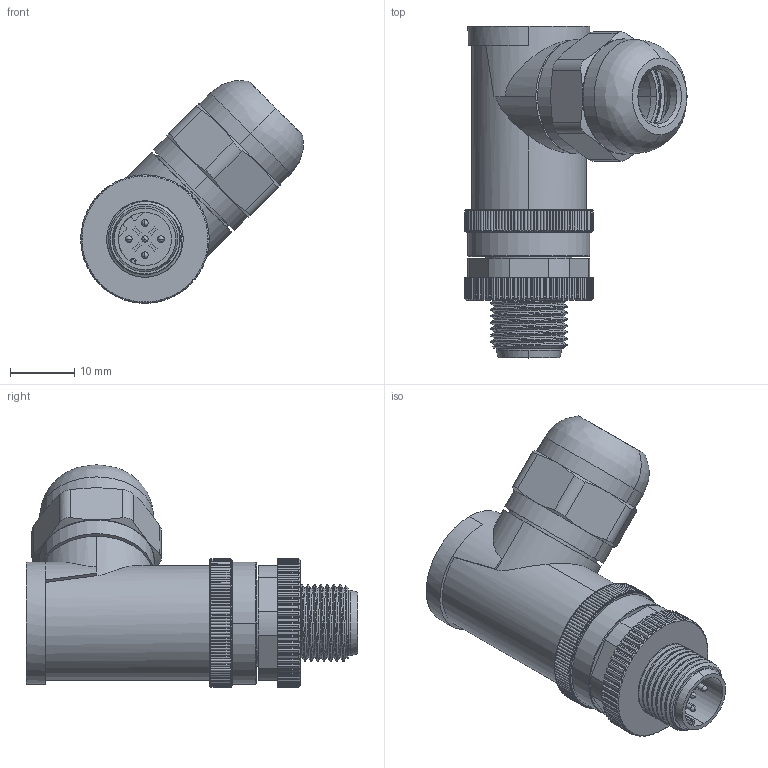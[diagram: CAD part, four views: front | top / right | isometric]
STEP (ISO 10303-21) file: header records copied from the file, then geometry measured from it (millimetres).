
FILE_DESCRIPTION((''),'2;1');
FILE_NAME('XC-M12P-RWK-PG9','2025-06-23T15:50:57',('lyj'),(''),'CREO PARAMETRIC BY PTC INC, 2019010','CREO PARAMETRIC BY PTC INC, 2019010','');
FILE_SCHEMA(('CONFIG_CONTROL_DESIGN'));
Length unit declared in the file: millimetre
Products named in the file (1): XC-M12P-RWK-PG9
Bounding box: 34.66 x 51.7 x 34.66 mm (x, y, z)
Volume: 10235.5 mm3; surface area: 14120.2 mm2
Topology: 1 solids, 16 shells, 1712 faces, 4505 edges, 2861 vertices
Faces by surface type: cylinder 834, plane 381, cone 373, bspline 60, extrusion 28, torus 24, sphere 12
Entity records: 84148 total; most frequent: CARTESIAN_POINT 43731, ORIENTED_EDGE 8986, DIRECTION 7774, EDGE_CURVE 4493, AXIS2_PLACEMENT_3D 3096, VERTEX_POINT 2861, EDGE_LOOP 1804, FACE_OUTER_BOUND 1712
